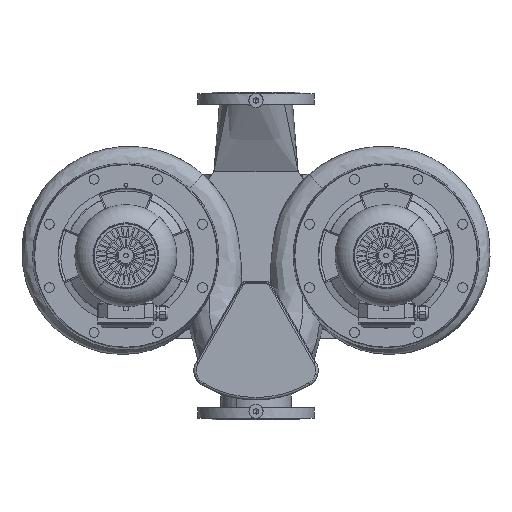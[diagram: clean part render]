
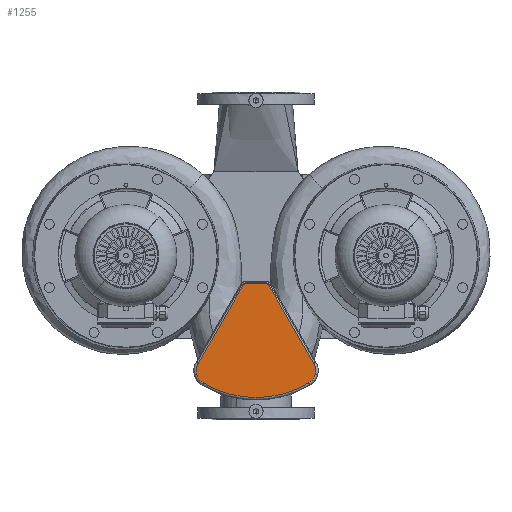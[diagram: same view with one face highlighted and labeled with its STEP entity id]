
A CAD part, top view. The second image highlights one B-rep face of the part: STEP entity #1255.
In plain terms, the highlighted planar face has unit normal (0, 0, 1).
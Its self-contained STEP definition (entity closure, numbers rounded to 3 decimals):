
#1255=ADVANCED_FACE('',(#2558),#2559,.T.);
#2558=FACE_OUTER_BOUND('',#5574,.T.);
#2559=PLANE('',#5575);
#5574=EDGE_LOOP('',(#13645,#13646,#13647,#13648,#13649,#13650,#13651,#13652,#13653,#13654,#13655,#13656,#13657));
#5575=AXIS2_PLACEMENT_3D('',#13658,#13659,#13660);
#13645=ORIENTED_EDGE('',*,*,#21493,.F.);
#13646=ORIENTED_EDGE('',*,*,#21483,.F.);
#13647=ORIENTED_EDGE('',*,*,#21477,.F.);
#13648=ORIENTED_EDGE('',*,*,#21499,.F.);
#13649=ORIENTED_EDGE('',*,*,#21473,.F.);
#13650=ORIENTED_EDGE('',*,*,#21467,.F.);
#13651=ORIENTED_EDGE('',*,*,#21504,.F.);
#13652=ORIENTED_EDGE('',*,*,#21462,.F.);
#13653=ORIENTED_EDGE('',*,*,#21507,.F.);
#13654=ORIENTED_EDGE('',*,*,#21457,.F.);
#13655=ORIENTED_EDGE('',*,*,#21511,.F.);
#13656=ORIENTED_EDGE('',*,*,#21453,.F.);
#13657=ORIENTED_EDGE('',*,*,#21487,.F.);
#13658=CARTESIAN_POINT('',(-22.7,54.5,100.0));
#13659=DIRECTION('',(0.0,0.0,1.0));
#13660=DIRECTION('',(1.0,0.0,0.0));
#21453=EDGE_CURVE('',#34716,#34718,#34719,.T.);
#21457=EDGE_CURVE('',#34722,#34725,#34726,.T.);
#21462=EDGE_CURVE('',#34731,#34734,#34735,.T.);
#21467=EDGE_CURVE('',#34740,#34743,#34744,.T.);
#21473=EDGE_CURVE('',#34743,#34753,#34754,.T.);
#21477=EDGE_CURVE('',#34757,#34760,#34761,.T.);
#21483=EDGE_CURVE('',#34760,#34770,#34771,.T.);
#21487=EDGE_CURVE('',#34774,#34716,#34777,.T.);
#21493=EDGE_CURVE('',#34770,#34774,#34785,.T.);
#21499=EDGE_CURVE('',#34753,#34757,#34792,.T.);
#21504=EDGE_CURVE('',#34734,#34740,#34797,.T.);
#21507=EDGE_CURVE('',#34725,#34731,#34800,.T.);
#21511=EDGE_CURVE('',#34718,#34722,#34805,.T.);
#34716=VERTEX_POINT('',#40660);
#34718=VERTEX_POINT('',#40662);
#34719=LINE('',#40663,#40664);
#34722=VERTEX_POINT('',#40667);
#34725=VERTEX_POINT('',#40670);
#34726=CIRCLE('',#40671,31.);
#34731=VERTEX_POINT('',#40676);
#34734=VERTEX_POINT('',#40679);
#34735=CIRCLE('',#40680,219.0);
#34740=VERTEX_POINT('',#40685);
#34743=VERTEX_POINT('',#40688);
#34744=CIRCLE('',#40689,31.0);
#34753=VERTEX_POINT('',#40699);
#34754=LINE('',#40700,#40701);
#34757=VERTEX_POINT('',#40704);
#34760=VERTEX_POINT('',#40707);
#34761=CIRCLE('',#40708,5.0);
#34770=VERTEX_POINT('',#40718);
#34771=LINE('',#40719,#40720);
#34774=VERTEX_POINT('',#40723);
#34777=CIRCLE('',#40726,5.0);
#34785=CIRCLE('',#40734,5.0);
#34792=CIRCLE('',#40742,5.0);
#34797=CIRCLE('',#40748,31.0);
#34800=CIRCLE('',#40751,219.0);
#34805=CIRCLE('',#40756,31.);
#40660=CARTESIAN_POINT('',(-27.03,62.0,100.0));
#40662=CARTESIAN_POINT('',(-123.569,229.21,100.0));
#40663=CARTESIAN_POINT('',(-24.865,58.25,100.0));
#40664=VECTOR('',#49744,1.0);
#40667=CARTESIAN_POINT('',(-126.732,252.482,100.0));
#40670=CARTESIAN_POINT('',(-112.671,271.293,100.0));
#40671=AXIS2_PLACEMENT_3D('',#49751,#49752,#49753);
#40676=CARTESIAN_POINT('',(0.,302.5,100.0));
#40679=CARTESIAN_POINT('',(112.671,271.293,100.0));
#40680=AXIS2_PLACEMENT_3D('',#49763,#49764,#49765);
#40685=CARTESIAN_POINT('',(126.732,252.482,100.0));
#40688=CARTESIAN_POINT('',(123.569,229.21,100.0));
#40689=AXIS2_PLACEMENT_3D('',#49775,#49776,#49777);
#40699=CARTESIAN_POINT('',(27.03,62.0,100.0));
#40700=CARTESIAN_POINT('',(67.46,132.026,100.0));
#40701=VECTOR('',#49788,1.);
#40704=CARTESIAN_POINT('',(25.2,60.17,100.0));
#40707=CARTESIAN_POINT('',(22.7,59.5,100.0));
#40708=AXIS2_PLACEMENT_3D('',#49795,#49796,#49797);
#40718=CARTESIAN_POINT('',(-22.7,59.5,100.0));
#40719=CARTESIAN_POINT('',(0.0,59.5,100.0));
#40720=VECTOR('',#49808,1.0);
#40723=CARTESIAN_POINT('',(-25.2,60.17,100.0));
#40726=AXIS2_PLACEMENT_3D('',#49815,#49816,#49817);
#40734=AXIS2_PLACEMENT_3D('',#49830,#49831,#49832);
#40742=AXIS2_PLACEMENT_3D('',#49840,#49841,#49842);
#40748=AXIS2_PLACEMENT_3D('',#49847,#49848,#49849);
#40751=AXIS2_PLACEMENT_3D('',#49853,#49854,#49855);
#40756=AXIS2_PLACEMENT_3D('',#49862,#49863,#49864);
#49744=DIRECTION('',(-0.5,0.866,0.0));
#49751=CARTESIAN_POINT('',(-96.722,244.71,100.0));
#49752=DIRECTION('',(0.0,0.0,-1.0));
#49753=DIRECTION('',(-0.968,0.251,0.0));
#49763=CARTESIAN_POINT('',(0.0,83.5,100.0));
#49764=DIRECTION('',(0.0,0.0,-1.0));
#49765=DIRECTION('',(0.,1.0,0.0));
#49775=CARTESIAN_POINT('',(96.722,244.71,100.0));
#49776=DIRECTION('',(0.0,0.0,-1.0));
#49777=DIRECTION('',(0.968,0.251,0.0));
#49788=DIRECTION('',(-0.5,-0.866,0.0));
#49795=CARTESIAN_POINT('',(22.7,64.5,100.0));
#49796=DIRECTION('',(0.0,0.0,-1.0));
#49797=DIRECTION('',(0.5,-0.866,0.0));
#49808=DIRECTION('',(-1.0,0.0,0.0));
#49815=CARTESIAN_POINT('',(-22.7,64.5,100.0));
#49816=DIRECTION('',(-0.0,0.0,-1.0));
#49817=DIRECTION('',(-0.5,-0.866,0.0));
#49830=CARTESIAN_POINT('',(-22.7,64.5,100.0));
#49831=DIRECTION('',(-0.0,0.0,-1.0));
#49832=DIRECTION('',(-0.5,-0.866,0.0));
#49840=CARTESIAN_POINT('',(22.7,64.5,100.0));
#49841=DIRECTION('',(0.0,0.0,-1.0));
#49842=DIRECTION('',(0.5,-0.866,0.0));
#49847=CARTESIAN_POINT('',(96.722,244.71,100.0));
#49848=DIRECTION('',(0.0,0.0,-1.0));
#49849=DIRECTION('',(0.968,0.251,0.0));
#49853=CARTESIAN_POINT('',(0.0,83.5,100.0));
#49854=DIRECTION('',(0.0,0.0,-1.0));
#49855=DIRECTION('',(0.,1.0,0.0));
#49862=CARTESIAN_POINT('',(-96.722,244.71,100.0));
#49863=DIRECTION('',(0.0,0.0,-1.0));
#49864=DIRECTION('',(-0.968,0.251,0.0));
